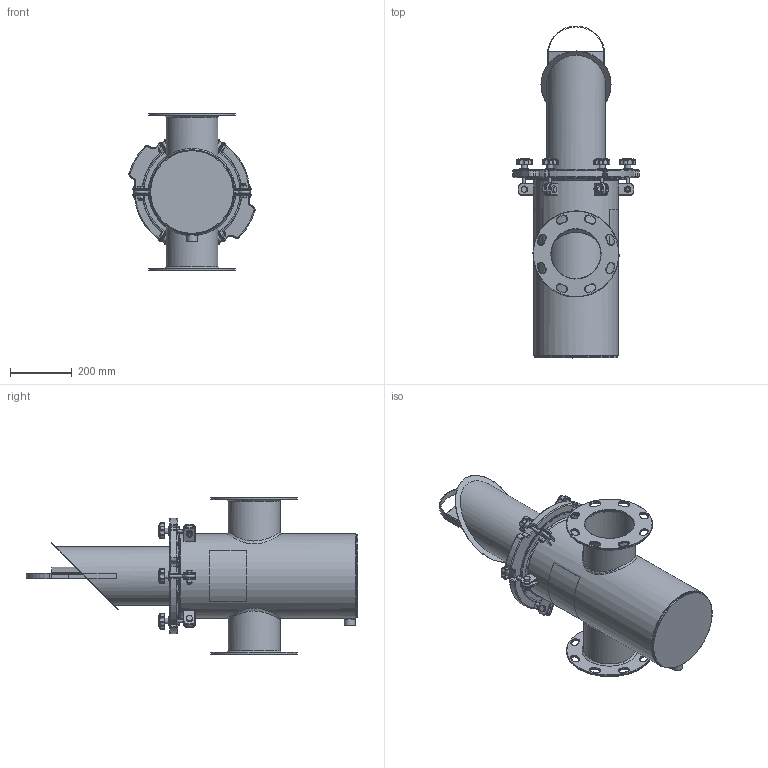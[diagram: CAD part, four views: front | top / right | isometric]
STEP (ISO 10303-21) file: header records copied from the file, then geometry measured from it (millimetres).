
FILE_DESCRIPTION(/* description */ ('10 3/4" STRAINER BODY'),/* implementation_level */ '2;1');
FILE_NAME(/* name */ 'C:\Users\r.kommineni.ext\Desktop\NB\CAD\Workspace\SS Straight\Guardian SS H&L Strainer (Inch)_CLEARANCE VOLUME\STRAINER H&L GUARDIAN 6(_DQ).stp',/* time_stamp */ '2017-06-09T13:08:44-04:00',/* author */ ('r.kommineni.ext'),/* organization */ (''),/* preprocessor_version */ 'ST-DEVELOPER v16.1',/* originating_system */ 'Autodesk Inventor 2016',/* authorisation */ '');
FILE_SCHEMA (('CONFIG_CONTROL_DESIGN'));
Length unit declared in the file: inch
Products named in the file (29): NBSSBODY06_Welds; FOR NBSSBODY06; FOR 10 3(_FS)4 DIA STRAINER BODY; FOR 10 3(_FS)4 DIA STRAINER BODY_1; 10 3(_FS)4 Body; ConcentricPipe-6(_DQ); 6(_DQ); For 10 3(_FS)4 Body; ASME B16.11 Half Coupling Threaded - Class 3000 3_4 x 3_4; 10 3(_FS)4 Body_1; NBSSBODY06; 150NBCVR48R1; 150NBGSK48R1; Perforated Basket 10in; Bride (Ring) 10in; Baffle 10in; Handle 10in; Bottom Strainer 10in; Nut- 1_2  UNC; Bolt-1_2 x 1 1_2  UNC; EyeBolt; Washer; Knob M10; Securing Assembly without Brace; Label for 10.75 inch (Right); Label for 10.75 inch (Left); NBBSK08T316_clearance; NBBSK08T316_clearance_1; STRAINER H&L GUARDIAN  6(_DQ)
Assembly tree (49 placements, depth 3):
  STRAINER H&L GUARDIAN  6(_DQ)
    NBSSBODY06
      NBSSBODY06_Welds
      FOR NBSSBODY06
      FOR 10 3(_FS)4 DIA STRAINER BODY
      FOR 10 3(_FS)4 DIA STRAINER BODY_1
      10 3(_FS)4 Body  x4
      ConcentricPipe-6(_DQ)  x2
      6(_DQ)  x2
      For 10 3(_FS)4 Body
      ASME B16.11 Half Coupling Threaded - Class 3000 3_4 x 3_4
      10 3(_FS)4 Body_1  x12
    150NBCVR48R1
    150NBGSK48R1
    NBBSK08T316_clearance_1
      Perforated Basket 10in
      Bride (Ring) 10in
      Baffle 10in
      Handle 10in
      Bottom Strainer 10in
      NBBSK08T316_clearance
    Securing Assembly without Brace  x6
      Nut- 1_2  UNC
      Bolt-1_2 x 1 1_2  UNC
      EyeBolt
      Washer
      Knob M10
    Label for 10.75 inch (Right)
    Label for 10.75 inch (Left)
Bounding box: 408.57 x 1075.33 x 508 mm (x, y, z)
Volume: 7077594.3 mm3; surface area: 3170094.9 mm2
Topology: 79 solids, 84 shells, 1714 faces, 3822 edges, 2256 vertices
Faces by surface type: cylinder 613, plane 472, torus 302, cone 143, bspline 94, sphere 90
Full cylindrical faces by diameter (mm): 3.175 x10, 6.35 x1, 8.382 x6, 9.525 x12, 10.592 x6, 12.7 x6, 15.875 x12, 19 x12, 19.05 x6, 22.8 x1, 22.809 x1, 31.75 x6, 35.052 x1, 160.337 x2, 162.717 x4, 168.275 x6, 187.325 x2, 190.5 x2, 193.04 x1, 264.716 x3, 266.7 x1, 269.875 x2, 273.05 x2, 276.225 x1, 279.4 x2, 311.15 x1, 317.5 x1, 323.85 x1
Entity records: 28182 total; most frequent: CARTESIAN_POINT 10586, DIRECTION 3808, ORIENTED_EDGE 3104, AXIS2_PLACEMENT_3D 1597, EDGE_CURVE 1578, VERTEX_POINT 1001, EDGE_LOOP 897, CIRCLE 768
